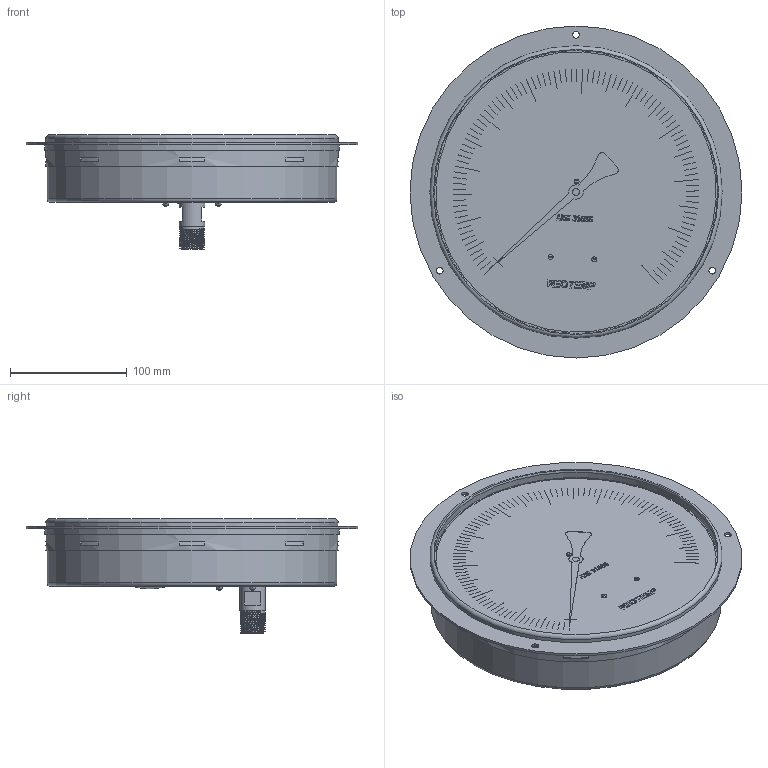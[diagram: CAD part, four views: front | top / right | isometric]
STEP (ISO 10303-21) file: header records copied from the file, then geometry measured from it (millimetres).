
FILE_DESCRIPTION(/* description */ (''),/* implementation_level */ '2;1');
FILE_NAME(/* name */ 'PR10 Back Connection NPT and Front Flange.stp',/* time_stamp */ '2024-06-05T11:30:56-05:00',/* author */ ('mpinzon'),/* organization */ (''),/* preprocessor_version */ 'ST-DEVELOPER v20',/* originating_system */ 'Autodesk Inventor 2024',/* authorisation */ '');
FILE_SCHEMA (('AUTOMOTIVE_DESIGN { 1 0 10303 214 3 1 1 }'));
Length unit declared in the file: inch
Products named in the file (7): PR10 Back Connection NPT and Front Flange; PR10 Back Connection NPT; PR10 Front Flange; PR10 Dial; PR 10 DIAL SCREW; PR 10 Front DIAL SCREW; PR10 NEEDLE 1
Assembly tree (10 placements, depth 2):
  PR10 Back Connection NPT and Front Flange
    PR10 Back Connection NPT
    PR10 Front Flange
    PR10 Dial
    PR 10 DIAL SCREW  x3
    PR 10 Front DIAL SCREW  x3
    PR10 NEEDLE 1
Bounding box: 284.99 x 284.99 x 98.04 mm (x, y, z)
Volume: 2539114.1 mm3; surface area: 285338.3 mm2
Topology: 10 solids, 10 shells, 949 faces, 2372 edges, 1588 vertices
Faces by surface type: plane 781, bspline 115, cylinder 41, cone 8, torus 3, sphere 1
Full cylindrical faces by diameter (mm): 4.267 x1, 4.28 x5, 5.715 x3, 5.842 x3, 5.944 x3, 5.994 x1, 21.336 x9, 22.098 x1, 240.792 x1, 243.332 x1, 248.92 x1, 250.952 x2, 252.984 x1, 284.988 x1
Entity records: 33851 total; most frequent: CARTESIAN_POINT 12566, ORIENTED_EDGE 4514, DIRECTION 3718, EDGE_CURVE 2257, LINE 1888, VECTOR 1888, VERTEX_POINT 1504, EDGE_LOOP 1057
